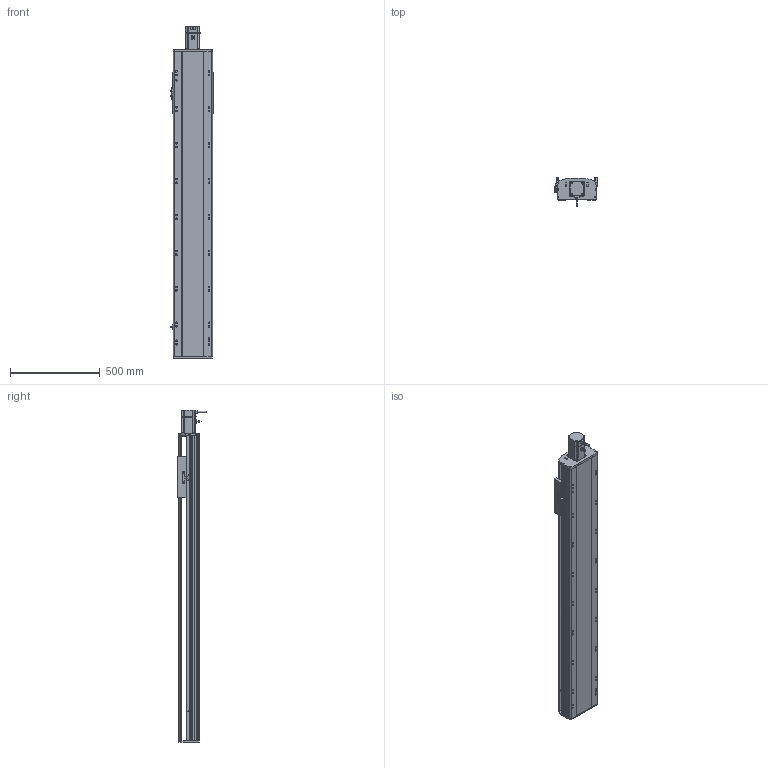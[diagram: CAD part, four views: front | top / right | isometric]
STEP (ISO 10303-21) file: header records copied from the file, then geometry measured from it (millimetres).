
FILE_DESCRIPTION (( 'STEP AP214' ), '1' );
FILE_NAME ('RTH22-XX-1300-E-M75-C4.STEP', '2025-10-24T10:49:00', ( 'Microsoft' ), ( 'Microsoft' ), 'SwSTEP 2.0', 'SolidWorks 2018', '' );
FILE_SCHEMA (( 'AUTOMOTIVE_DESIGN' ));
Length unit declared in the file: millimetre
Products named in the file (9): N_RTH22-E-008萇儂啣^RTH22-XX-XX-E-M75-C4; N_RTH22-E-007奻裔^RTH22-XX-XX-E-M75-C4; N_RTH22-GY-013外置感应片^RTH22-XX-XX-E-M75-C4; N_OMRON EE-SX672 传感器^RTH22-XX-XX-E-M75-C4; RTH22-XX-1300-E-M75-C4; N_RTH22-E-004-SFS25賑釱^RTH22-XX-XX-E-M75-C4; N_RTH22-GY-001耜裔^RTH22-XX-XX-E-M75-C4; N_RTH22-E-011菁釱^RTH22-XX-XX-E-M75-C4; N_750W萇儂^RTH22-XX-XX-E-M75-C4
Assembly tree (10 placements, depth 2):
  RTH22-XX-1300-E-M75-C4
    N_RTH22-E-011菁釱^RTH22-XX-XX-E-M75-C4
    N_RTH22-GY-001耜裔^RTH22-XX-XX-E-M75-C4
    N_RTH22-E-008萇儂啣^RTH22-XX-XX-E-M75-C4
    N_RTH22-E-007奻裔^RTH22-XX-XX-E-M75-C4
    N_RTH22-GY-013外置感应片^RTH22-XX-XX-E-M75-C4
    N_RTH22-E-004-SFS25賑釱^RTH22-XX-XX-E-M75-C4
    N_750W萇儂^RTH22-XX-XX-E-M75-C4
    N_OMRON EE-SX672 传感器^RTH22-XX-XX-E-M75-C4  x3
Bounding box: 238.5 x 160.7 x 1849 mm (x, y, z)
Volume: 22934991.4 mm3; surface area: 2356237.1 mm2
Topology: 10 solids, 10 shells, 1577 faces, 4324 edges, 2789 vertices
Faces by surface type: plane 760, cylinder 472, bspline 279, cone 66
Entity records: 39947 total; most frequent: CARTESIAN_POINT 12441, ORIENTED_EDGE 5608, DIRECTION 5310, EDGE_CURVE 2804, VERTEX_POINT 1825, AXIS2_PLACEMENT_3D 1806, VECTOR 1698, LINE 1698
